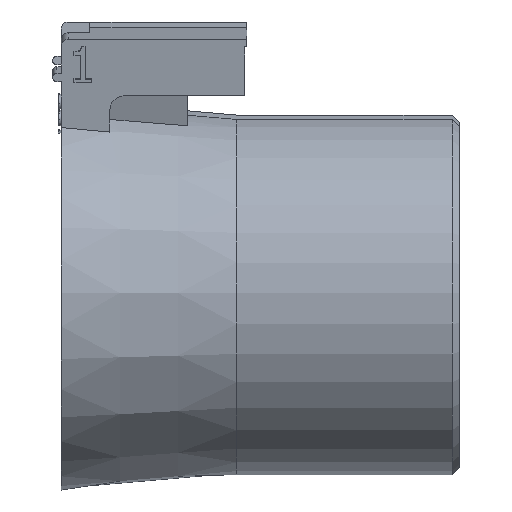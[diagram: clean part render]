
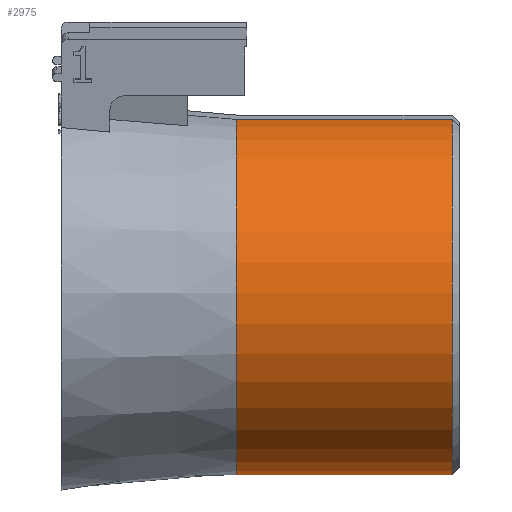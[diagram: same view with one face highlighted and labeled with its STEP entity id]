
A CAD part, front view. The second image highlights one B-rep face of the part: STEP entity #2975.
In plain terms, the highlighted cylindrical face has radius 12.5 mm (diameter 25 mm), a partial arc.
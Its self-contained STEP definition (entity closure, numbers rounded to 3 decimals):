
#49=CYLINDRICAL_SURFACE('',#3158,12.5);
#85=CIRCLE('',#3139,12.5);
#94=CIRCLE('',#3159,12.5);
#443=FACE_OUTER_BOUND('',#606,.T.);
#606=EDGE_LOOP('',(#2627,#2628,#2629,#2630));
#879=LINE('',#4993,#1168);
#901=LINE('',#5040,#1190);
#1168=VECTOR('',#3684,10.);
#1190=VECTOR('',#3720,10.);
#1507=VERTEX_POINT('',#4913);
#1510=VERTEX_POINT('',#4926);
#1531=VERTEX_POINT('',#4992);
#1549=VERTEX_POINT('',#5039);
#1878=EDGE_CURVE('',#1507,#1510,#85,.T.);
#1908=EDGE_CURVE('',#1531,#1510,#879,.T.);
#1933=EDGE_CURVE('',#1549,#1507,#901,.T.);
#1934=EDGE_CURVE('',#1531,#1549,#94,.T.);
#2627=ORIENTED_EDGE('',*,*,#1933,.F.);
#2628=ORIENTED_EDGE('',*,*,#1934,.F.);
#2629=ORIENTED_EDGE('',*,*,#1908,.T.);
#2630=ORIENTED_EDGE('',*,*,#1878,.F.);
#2975=ADVANCED_FACE('',(#443),#49,.T.);
#3139=AXIS2_PLACEMENT_3D('',#4927,#3638,#3639);
#3158=AXIS2_PLACEMENT_3D('',#5038,#3718,#3719);
#3159=AXIS2_PLACEMENT_3D('',#5041,#3721,#3722);
#3638=DIRECTION('center_axis',(-1.,0.,0.));
#3639=DIRECTION('ref_axis',(0.,-0.985,-0.174));
#3684=DIRECTION('',(-1.,0.,0.));
#3718=DIRECTION('center_axis',(-1.,0.,0.));
#3719=DIRECTION('ref_axis',(0.,-0.985,-0.174));
#3720=DIRECTION('',(-1.,0.,0.));
#3721=DIRECTION('center_axis',(1.,0.,0.));
#3722=DIRECTION('ref_axis',(0.,0.985,0.174));
#4913=CARTESIAN_POINT('',(11.43,0.402,-12.494));
#4926=CARTESIAN_POINT('',(11.43,-3.542,12.19));
#4927=CARTESIAN_POINT('Origin',(11.43,-1.372,-0.12));
#4992=CARTESIAN_POINT('',(26.5,-3.542,12.19));
#4993=CARTESIAN_POINT('',(19.215,-3.542,12.19));
#5038=CARTESIAN_POINT('Origin',(19.215,-1.372,-0.12));
#5039=CARTESIAN_POINT('',(26.5,0.402,-12.494));
#5040=CARTESIAN_POINT('',(19.215,0.402,-12.494));
#5041=CARTESIAN_POINT('Origin',(26.5,-1.372,-0.12));
